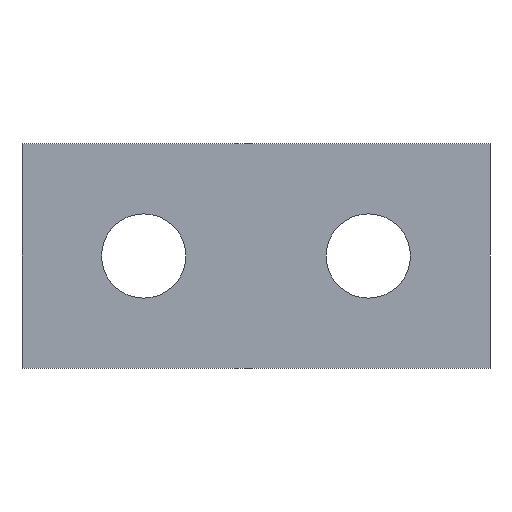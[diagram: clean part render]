
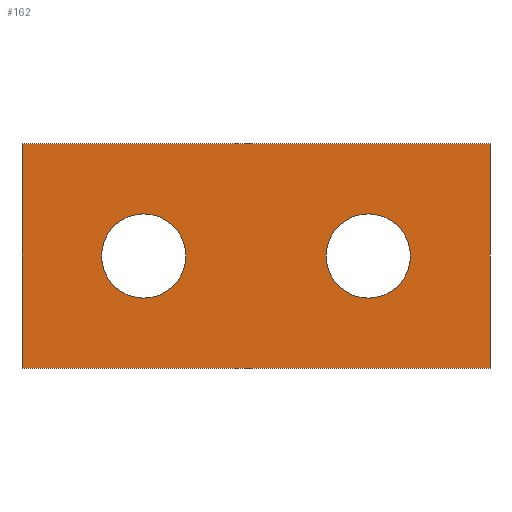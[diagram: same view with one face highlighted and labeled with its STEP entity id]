
A CAD part, front view. The second image highlights one B-rep face of the part: STEP entity #162.
In plain terms, the highlighted planar face has unit normal (0, -1, 0).
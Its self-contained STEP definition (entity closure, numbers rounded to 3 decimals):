
#3 = DIRECTION ( 'NONE',  ( 1., 0., 0. ) ) ;
#5 = VECTOR ( 'NONE', #142, 1000. ) ;
#10 = AXIS2_PLACEMENT_3D ( 'NONE', #201, #82, #233 ) ;
#13 = DIRECTION ( 'NONE',  ( 0., 1., 0. ) ) ;
#18 = CARTESIAN_POINT ( 'NONE',  ( -12., 0., 0. ) ) ;
#22 = DIRECTION ( 'NONE',  ( 0., 1., 0. ) ) ;
#26 = AXIS2_PLACEMENT_3D ( 'NONE', #325, #206, #55 ) ;
#29 = EDGE_CURVE ( 'NONE', #280, #161, #138, .T. ) ;
#32 = CIRCLE ( 'NONE', #10, 4.5 ) ;
#46 = CARTESIAN_POINT ( 'NONE',  ( -12., 0., 4.5 ) ) ;
#49 = CARTESIAN_POINT ( 'NONE',  ( -25., 0., -12. ) ) ;
#54 = CARTESIAN_POINT ( 'NONE',  ( -25., 0., 12. ) ) ;
#55 = DIRECTION ( 'NONE',  ( 0., 0., 1. ) ) ;
#62 = VERTEX_POINT ( 'NONE', #163 ) ;
#66 = ORIENTED_EDGE ( 'NONE', *, *, #265, .F. ) ;
#67 = FACE_OUTER_BOUND ( 'NONE', #116, .T. ) ;
#68 = ORIENTED_EDGE ( 'NONE', *, *, #313, .T. ) ;
#74 = EDGE_LOOP ( 'NONE', ( #198, #68 ) ) ;
#81 = CARTESIAN_POINT ( 'NONE',  ( 25., 0., -12. ) ) ;
#82 = DIRECTION ( 'NONE',  ( 0., 1., 0. ) ) ;
#84 = CIRCLE ( 'NONE', #363, 4.5 ) ;
#101 = ORIENTED_EDGE ( 'NONE', *, *, #29, .F. ) ;
#107 = CARTESIAN_POINT ( 'NONE',  ( 25., 0., 12. ) ) ;
#116 = EDGE_LOOP ( 'NONE', ( #66, #101, #338, #311 ) ) ;
#123 = AXIS2_PLACEMENT_3D ( 'NONE', #370, #13, #197 ) ;
#133 = VERTEX_POINT ( 'NONE', #342 ) ;
#134 = CARTESIAN_POINT ( 'NONE',  ( 25., 0., -12. ) ) ;
#135 = FACE_BOUND ( 'NONE', #301, .T. ) ;
#138 = LINE ( 'NONE', #245, #376 ) ;
#142 = DIRECTION ( 'NONE',  ( -1., 0., 0. ) ) ;
#145 = VERTEX_POINT ( 'NONE', #134 ) ;
#148 = DIRECTION ( 'NONE',  ( 0., 0., 1. ) ) ;
#160 = VERTEX_POINT ( 'NONE', #346 ) ;
#161 = VERTEX_POINT ( 'NONE', #107 ) ;
#162 = ADVANCED_FACE ( 'NONE', ( #246, #135, #67 ), #167, .F. ) ;
#163 = CARTESIAN_POINT ( 'NONE',  ( -12., 0., -4.5 ) ) ;
#167 = PLANE ( 'NONE',  #123 ) ;
#172 = CIRCLE ( 'NONE', #26, 4.5 ) ;
#187 = VECTOR ( 'NONE', #260, 1000. ) ;
#196 = VECTOR ( 'NONE', #264, 1000. ) ;
#197 = DIRECTION ( 'NONE',  ( 0., 0., 1. ) ) ;
#198 = ORIENTED_EDGE ( 'NONE', *, *, #358, .T. ) ;
#201 = CARTESIAN_POINT ( 'NONE',  ( 12., 0., 0. ) ) ;
#206 = DIRECTION ( 'NONE',  ( 0., 1., 0. ) ) ;
#207 = DIRECTION ( 'NONE',  ( 0., 1., 0. ) ) ;
#208 = LINE ( 'NONE', #262, #5 ) ;
#216 = VERTEX_POINT ( 'NONE', #46 ) ;
#224 = EDGE_CURVE ( 'NONE', #216, #62, #172, .T. ) ;
#233 = DIRECTION ( 'NONE',  ( 0., 0., 1. ) ) ;
#236 = DIRECTION ( 'NONE',  ( 0., 0., 1. ) ) ;
#238 = EDGE_CURVE ( 'NONE', #62, #216, #84, .T. ) ;
#243 = CIRCLE ( 'NONE', #303, 4.5 ) ;
#245 = CARTESIAN_POINT ( 'NONE',  ( -25., 0., 12. ) ) ;
#246 = FACE_BOUND ( 'NONE', #74, .T. ) ;
#260 = DIRECTION ( 'NONE',  ( 0., 0., 1. ) ) ;
#262 = CARTESIAN_POINT ( 'NONE',  ( -25., 0., -12. ) ) ;
#264 = DIRECTION ( 'NONE',  ( 0., 0., -1. ) ) ;
#265 = EDGE_CURVE ( 'NONE', #161, #145, #286, .T. ) ;
#277 = EDGE_CURVE ( 'NONE', #351, #280, #306, .T. ) ;
#280 = VERTEX_POINT ( 'NONE', #54 ) ;
#286 = LINE ( 'NONE', #81, #196 ) ;
#301 = EDGE_LOOP ( 'NONE', ( #341, #360 ) ) ;
#303 = AXIS2_PLACEMENT_3D ( 'NONE', #329, #207, #148 ) ;
#306 = LINE ( 'NONE', #49, #187 ) ;
#311 = ORIENTED_EDGE ( 'NONE', *, *, #331, .F. ) ;
#313 = EDGE_CURVE ( 'NONE', #160, #133, #32, .T. ) ;
#325 = CARTESIAN_POINT ( 'NONE',  ( -12., 0., 0. ) ) ;
#329 = CARTESIAN_POINT ( 'NONE',  ( 12., 0., 0. ) ) ;
#331 = EDGE_CURVE ( 'NONE', #145, #351, #208, .T. ) ;
#338 = ORIENTED_EDGE ( 'NONE', *, *, #277, .F. ) ;
#341 = ORIENTED_EDGE ( 'NONE', *, *, #224, .T. ) ;
#342 = CARTESIAN_POINT ( 'NONE',  ( 12., 0., 4.5 ) ) ;
#346 = CARTESIAN_POINT ( 'NONE',  ( 12., 0., -4.5 ) ) ;
#351 = VERTEX_POINT ( 'NONE', #353 ) ;
#353 = CARTESIAN_POINT ( 'NONE',  ( -25., 0., -12. ) ) ;
#358 = EDGE_CURVE ( 'NONE', #133, #160, #243, .T. ) ;
#360 = ORIENTED_EDGE ( 'NONE', *, *, #238, .T. ) ;
#363 = AXIS2_PLACEMENT_3D ( 'NONE', #18, #22, #236 ) ;
#370 = CARTESIAN_POINT ( 'NONE',  ( 25., 0., 12. ) ) ;
#376 = VECTOR ( 'NONE', #3, 1000. ) ;
